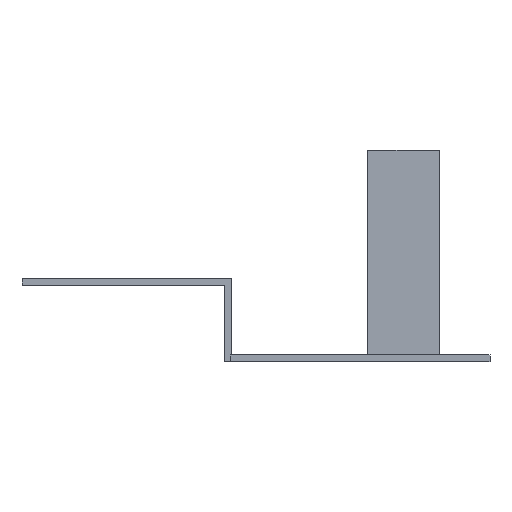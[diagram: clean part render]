
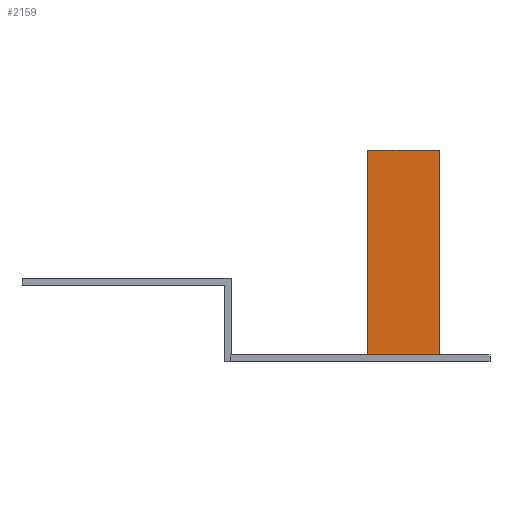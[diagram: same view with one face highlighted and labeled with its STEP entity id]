
A CAD part, front view. The second image highlights one B-rep face of the part: STEP entity #2159.
In plain terms, the highlighted planar face has unit normal (0, -1, 0).
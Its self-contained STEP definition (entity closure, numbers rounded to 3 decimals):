
#44 = PLANE('',#45);
#45 = AXIS2_PLACEMENT_3D('',#46,#47,#48);
#46 = CARTESIAN_POINT('',(27.,-24.,5.2));
#47 = DIRECTION('',(0.,0.,1.));
#48 = DIRECTION('',(1.,0.,-0.));
#464 = EDGE_CURVE('',#465,#467,#469,.T.);
#465 = VERTEX_POINT('',#466);
#466 = CARTESIAN_POINT('',(62.,-23.1,5.2));
#467 = VERTEX_POINT('',#468);
#468 = CARTESIAN_POINT('',(50.,-23.1,5.2));
#469 = SURFACE_CURVE('',#470,(#474,#480),.PCURVE_S1.);
#470 = LINE('',#471,#472);
#471 = CARTESIAN_POINT('',(38.5,-23.1,5.2));
#472 = VECTOR('',#473,1.);
#473 = DIRECTION('',(-1.,-0.,0.));
#474 = PCURVE('',#44,#475);
#475 = DEFINITIONAL_REPRESENTATION('',(#476),#479);
#476 = B_SPLINE_CURVE_WITH_KNOTS('',1,(#477,#478),.UNSPECIFIED.,.F.,.F.,
  (2,2),(-23.5,-11.5),.PIECEWISE_BEZIER_KNOTS.);
#477 = CARTESIAN_POINT('',(35.,0.9));
#478 = CARTESIAN_POINT('',(23.,0.9));
#479 = ( GEOMETRIC_REPRESENTATION_CONTEXT(2) 
PARAMETRIC_REPRESENTATION_CONTEXT() REPRESENTATION_CONTEXT('2D SPACE',''
  ) );
#480 = PCURVE('',#481,#486);
#481 = PLANE('',#482);
#482 = AXIS2_PLACEMENT_3D('',#483,#484,#485);
#483 = CARTESIAN_POINT('',(50.,-23.1,4.1));
#484 = DIRECTION('',(-0.,1.,0.));
#485 = DIRECTION('',(0.,0.,1.));
#486 = DEFINITIONAL_REPRESENTATION('',(#487),#490);
#487 = B_SPLINE_CURVE_WITH_KNOTS('',1,(#488,#489),.UNSPECIFIED.,.F.,.F.,
  (2,2),(-23.5,-11.5),.PIECEWISE_BEZIER_KNOTS.);
#488 = CARTESIAN_POINT('',(1.1,12.));
#489 = CARTESIAN_POINT('',(1.1,0.));
#490 = ( GEOMETRIC_REPRESENTATION_CONTEXT(2) 
PARAMETRIC_REPRESENTATION_CONTEXT() REPRESENTATION_CONTEXT('2D SPACE',''
  ) );
#507 = PLANE('',#508);
#508 = AXIS2_PLACEMENT_3D('',#509,#510,#511);
#509 = CARTESIAN_POINT('',(50.,-23.1,4.1));
#510 = DIRECTION('',(1.,0.,-0.));
#511 = DIRECTION('',(0.,0.,1.));
#558 = PLANE('',#559);
#559 = AXIS2_PLACEMENT_3D('',#560,#561,#562);
#560 = CARTESIAN_POINT('',(62.,-23.1,4.1));
#561 = DIRECTION('',(1.,0.,-0.));
#562 = DIRECTION('',(0.,0.,1.));
#2159 = ADVANCED_FACE('',(#2160),#481,.F.);
#2160 = FACE_BOUND('',#2161,.F.);
#2161 = EDGE_LOOP('',(#2162,#2185,#2186,#2209));
#2162 = ORIENTED_EDGE('',*,*,#2163,.F.);
#2163 = EDGE_CURVE('',#465,#2164,#2166,.T.);
#2164 = VERTEX_POINT('',#2165);
#2165 = CARTESIAN_POINT('',(62.,-23.1,39.5));
#2166 = SURFACE_CURVE('',#2167,(#2171,#2178),.PCURVE_S1.);
#2167 = LINE('',#2168,#2169);
#2168 = CARTESIAN_POINT('',(62.,-23.1,5.2));
#2169 = VECTOR('',#2170,1.);
#2170 = DIRECTION('',(0.,0.,1.));
#2171 = PCURVE('',#481,#2172);
#2172 = DEFINITIONAL_REPRESENTATION('',(#2173),#2177);
#2173 = LINE('',#2174,#2175);
#2174 = CARTESIAN_POINT('',(1.1,12.));
#2175 = VECTOR('',#2176,1.);
#2176 = DIRECTION('',(1.,0.));
#2177 = ( GEOMETRIC_REPRESENTATION_CONTEXT(2) 
PARAMETRIC_REPRESENTATION_CONTEXT() REPRESENTATION_CONTEXT('2D SPACE',''
  ) );
#2178 = PCURVE('',#558,#2179);
#2179 = DEFINITIONAL_REPRESENTATION('',(#2180),#2184);
#2180 = LINE('',#2181,#2182);
#2181 = CARTESIAN_POINT('',(1.1,0.));
#2182 = VECTOR('',#2183,1.);
#2183 = DIRECTION('',(1.,0.));
#2184 = ( GEOMETRIC_REPRESENTATION_CONTEXT(2) 
PARAMETRIC_REPRESENTATION_CONTEXT() REPRESENTATION_CONTEXT('2D SPACE',''
  ) );
#2185 = ORIENTED_EDGE('',*,*,#464,.T.);
#2186 = ORIENTED_EDGE('',*,*,#2187,.F.);
#2187 = EDGE_CURVE('',#2188,#467,#2190,.T.);
#2188 = VERTEX_POINT('',#2189);
#2189 = CARTESIAN_POINT('',(50.,-23.1,39.5));
#2190 = SURFACE_CURVE('',#2191,(#2195,#2202),.PCURVE_S1.);
#2191 = LINE('',#2192,#2193);
#2192 = CARTESIAN_POINT('',(50.,-23.1,39.5));
#2193 = VECTOR('',#2194,1.);
#2194 = DIRECTION('',(0.,0.,-1.));
#2195 = PCURVE('',#481,#2196);
#2196 = DEFINITIONAL_REPRESENTATION('',(#2197),#2201);
#2197 = LINE('',#2198,#2199);
#2198 = CARTESIAN_POINT('',(35.4,0.));
#2199 = VECTOR('',#2200,1.);
#2200 = DIRECTION('',(-1.,0.));
#2201 = ( GEOMETRIC_REPRESENTATION_CONTEXT(2) 
PARAMETRIC_REPRESENTATION_CONTEXT() REPRESENTATION_CONTEXT('2D SPACE',''
  ) );
#2202 = PCURVE('',#507,#2203);
#2203 = DEFINITIONAL_REPRESENTATION('',(#2204),#2208);
#2204 = LINE('',#2205,#2206);
#2205 = CARTESIAN_POINT('',(35.4,0.));
#2206 = VECTOR('',#2207,1.);
#2207 = DIRECTION('',(-1.,0.));
#2208 = ( GEOMETRIC_REPRESENTATION_CONTEXT(2) 
PARAMETRIC_REPRESENTATION_CONTEXT() REPRESENTATION_CONTEXT('2D SPACE',''
  ) );
#2209 = ORIENTED_EDGE('',*,*,#2210,.T.);
#2210 = EDGE_CURVE('',#2188,#2164,#2211,.T.);
#2211 = SURFACE_CURVE('',#2212,(#2216,#2223),.PCURVE_S1.);
#2212 = LINE('',#2213,#2214);
#2213 = CARTESIAN_POINT('',(50.,-23.1,39.5));
#2214 = VECTOR('',#2215,1.);
#2215 = DIRECTION('',(1.,0.,-0.));
#2216 = PCURVE('',#481,#2217);
#2217 = DEFINITIONAL_REPRESENTATION('',(#2218),#2222);
#2218 = LINE('',#2219,#2220);
#2219 = CARTESIAN_POINT('',(35.4,0.));
#2220 = VECTOR('',#2221,1.);
#2221 = DIRECTION('',(0.,1.));
#2222 = ( GEOMETRIC_REPRESENTATION_CONTEXT(2) 
PARAMETRIC_REPRESENTATION_CONTEXT() REPRESENTATION_CONTEXT('2D SPACE',''
  ) );
#2223 = PCURVE('',#2224,#2229);
#2224 = PLANE('',#2225);
#2225 = AXIS2_PLACEMENT_3D('',#2226,#2227,#2228);
#2226 = CARTESIAN_POINT('',(50.,-23.1,39.5));
#2227 = DIRECTION('',(0.,0.,1.));
#2228 = DIRECTION('',(1.,0.,-0.));
#2229 = DEFINITIONAL_REPRESENTATION('',(#2230),#2234);
#2230 = LINE('',#2231,#2232);
#2231 = CARTESIAN_POINT('',(0.,0.));
#2232 = VECTOR('',#2233,1.);
#2233 = DIRECTION('',(1.,0.));
#2234 = ( GEOMETRIC_REPRESENTATION_CONTEXT(2) 
PARAMETRIC_REPRESENTATION_CONTEXT() REPRESENTATION_CONTEXT('2D SPACE',''
  ) );
